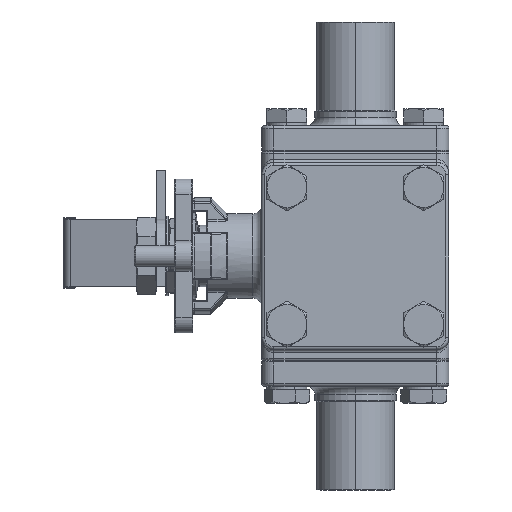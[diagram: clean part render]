
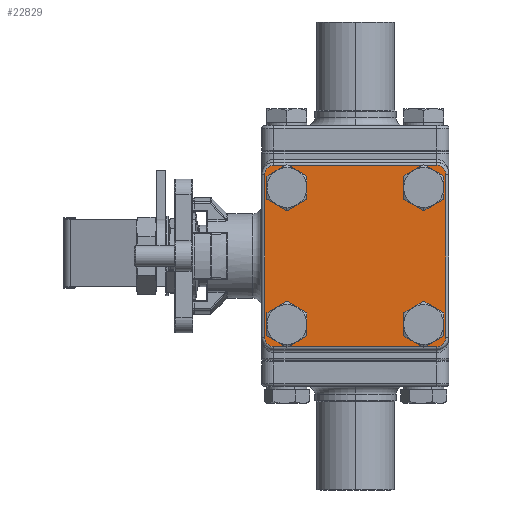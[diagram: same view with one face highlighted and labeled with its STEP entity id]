
A CAD part, left-side view. The second image highlights one B-rep face of the part: STEP entity #22829.
In plain terms, the highlighted planar face has unit normal (-1, 0, 0) as drawn and (0, 0, 1) by its records, which use the part's own axes.
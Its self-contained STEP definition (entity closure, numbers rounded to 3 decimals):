
#166 = CARTESIAN_POINT ( 'NONE',  ( 29.5, 26.5, 7. ) ) ;
#569 = DIRECTION ( 'NONE',  ( 1., 0., 0. ) ) ;
#1210 = CIRCLE ( 'NONE', #7942, 3. ) ;
#1321 = DIRECTION ( 'NONE',  ( 0., 0., 1. ) ) ;
#2297 = CIRCLE ( 'NONE', #10041, 4.5 ) ;
#3336 = DIRECTION ( 'NONE',  ( 0., 0., 1. ) ) ;
#3459 = ORIENTED_EDGE ( 'NONE', *, *, #12803, .F. ) ;
#3876 = EDGE_LOOP ( 'NONE', ( #29893, #31079 ) ) ;
#4193 = AXIS2_PLACEMENT_3D ( 'NONE', #8302, #29030, #15559 ) ;
#4325 = DIRECTION ( 'NONE',  ( 0., 0., 1. ) ) ;
#4477 = CARTESIAN_POINT ( 'NONE',  ( 17.774, 22.274, 7. ) ) ;
#4479 = ORIENTED_EDGE ( 'NONE', *, *, #21447, .T. ) ;
#4515 = ORIENTED_EDGE ( 'NONE', *, *, #8378, .T. ) ;
#4678 = DIRECTION ( 'NONE',  ( 1., 0., 0. ) ) ;
#4811 = CARTESIAN_POINT ( 'NONE',  ( 26.5, -29.5, 7. ) ) ;
#5386 = AXIS2_PLACEMENT_3D ( 'NONE', #6207, #4325, #34070 ) ;
#5728 = PLANE ( 'NONE',  #19064 ) ;
#5816 = VERTEX_POINT ( 'NONE', #4811 ) ;
#5889 = EDGE_CURVE ( 'NONE', #27124, #16553, #33136, .T. ) ;
#5891 = CIRCLE ( 'NONE', #20652, 4.5 ) ;
#6006 = CARTESIAN_POINT ( 'NONE',  ( -22.274, -22.274, 7. ) ) ;
#6058 = CARTESIAN_POINT ( 'NONE',  ( 26.5, 29.5, 7. ) ) ;
#6132 = DIRECTION ( 'NONE',  ( 1., 0., 0. ) ) ;
#6207 = CARTESIAN_POINT ( 'NONE',  ( 22.274, -22.274, 7. ) ) ;
#6444 = LINE ( 'NONE', #15160, #32441 ) ;
#6689 = ORIENTED_EDGE ( 'NONE', *, *, #20789, .T. ) ;
#7347 = CARTESIAN_POINT ( 'NONE',  ( 26.5, -29.5, 7. ) ) ;
#7654 = DIRECTION ( 'NONE',  ( 0., 0., 1. ) ) ;
#7823 = VERTEX_POINT ( 'NONE', #4477 ) ;
#7942 = AXIS2_PLACEMENT_3D ( 'NONE', #30781, #17639, #33827 ) ;
#8302 = CARTESIAN_POINT ( 'NONE',  ( -22.274, 22.274, 7. ) ) ;
#8378 = EDGE_CURVE ( 'NONE', #19658, #5816, #33809, .T. ) ;
#8907 = CIRCLE ( 'NONE', #28477, 3. ) ;
#9038 = CARTESIAN_POINT ( 'NONE',  ( 22.274, 22.274, 7. ) ) ;
#10024 = EDGE_CURVE ( 'NONE', #29282, #21797, #28288, .T. ) ;
#10041 = AXIS2_PLACEMENT_3D ( 'NONE', #24972, #1321, #20021 ) ;
#10082 = FACE_BOUND ( 'NONE', #11365, .T. ) ;
#10202 = VERTEX_POINT ( 'NONE', #21248 ) ;
#10339 = ORIENTED_EDGE ( 'NONE', *, *, #11809, .T. ) ;
#10552 = VERTEX_POINT ( 'NONE', #34412 ) ;
#10590 = CIRCLE ( 'NONE', #5386, 4.5 ) ;
#10687 = VECTOR ( 'NONE', #34172, 1000. ) ;
#10820 = ORIENTED_EDGE ( 'NONE', *, *, #23321, .F. ) ;
#10976 = EDGE_CURVE ( 'NONE', #28354, #10552, #6444, .T. ) ;
#11107 = CARTESIAN_POINT ( 'NONE',  ( 26.5, -26.5, 7. ) ) ;
#11324 = CARTESIAN_POINT ( 'NONE',  ( 26.5, -26.5, 7. ) ) ;
#11365 = EDGE_LOOP ( 'NONE', ( #25812, #3459 ) ) ;
#11518 = LINE ( 'NONE', #18337, #10687 ) ;
#11809 = EDGE_CURVE ( 'NONE', #29472, #17555, #20202, .T. ) ;
#12518 = CARTESIAN_POINT ( 'NONE',  ( 29.5, 26.5, 7. ) ) ;
#12803 = EDGE_CURVE ( 'NONE', #16726, #10202, #25350, .T. ) ;
#12841 = VECTOR ( 'NONE', #20807, 1000. ) ;
#13062 = DIRECTION ( 'NONE',  ( 0., 0., 1. ) ) ;
#13077 = VECTOR ( 'NONE', #24483, 1000. ) ;
#13533 = CARTESIAN_POINT ( 'NONE',  ( -17.774, 22.274, 7. ) ) ;
#14382 = ORIENTED_EDGE ( 'NONE', *, *, #10976, .T. ) ;
#14713 = EDGE_CURVE ( 'NONE', #21797, #29282, #10590, .T. ) ;
#14792 = CARTESIAN_POINT ( 'NONE',  ( 17.774, -22.274, 7. ) ) ;
#15160 = CARTESIAN_POINT ( 'NONE',  ( -26.5, 29.5, 7. ) ) ;
#15559 = DIRECTION ( 'NONE',  ( 1., 0., 0. ) ) ;
#15589 = CARTESIAN_POINT ( 'NONE',  ( -17.774, -22.274, 7. ) ) ;
#15590 = ORIENTED_EDGE ( 'NONE', *, *, #5889, .F. ) ;
#15664 = VERTEX_POINT ( 'NONE', #33494 ) ;
#16553 = VERTEX_POINT ( 'NONE', #28384 ) ;
#16577 = DIRECTION ( 'NONE',  ( 0., 0., 1. ) ) ;
#16620 = CIRCLE ( 'NONE', #32958, 3. ) ;
#16726 = VERTEX_POINT ( 'NONE', #15589 ) ;
#16802 = FACE_BOUND ( 'NONE', #24704, .T. ) ;
#16966 = CIRCLE ( 'NONE', #27294, 4.5 ) ;
#17066 = AXIS2_PLACEMENT_3D ( 'NONE', #6006, #3336, #30021 ) ;
#17225 = VERTEX_POINT ( 'NONE', #19214 ) ;
#17258 = ORIENTED_EDGE ( 'NONE', *, *, #20510, .T. ) ;
#17555 = VERTEX_POINT ( 'NONE', #12518 ) ;
#17639 = DIRECTION ( 'NONE',  ( 0., 0., 1. ) ) ;
#17789 = DIRECTION ( 'NONE',  ( 0., 0., 1. ) ) ;
#17980 = EDGE_CURVE ( 'NONE', #15664, #19658, #1210, .T. ) ;
#18315 = ORIENTED_EDGE ( 'NONE', *, *, #14713, .F. ) ;
#18337 = CARTESIAN_POINT ( 'NONE',  ( -29.5, -26.5, 7. ) ) ;
#19064 = AXIS2_PLACEMENT_3D ( 'NONE', #11107, #29619, #31981 ) ;
#19214 = CARTESIAN_POINT ( 'NONE',  ( -29.5, 26.5, 7. ) ) ;
#19531 = CIRCLE ( 'NONE', #28870, 3. ) ;
#19658 = VERTEX_POINT ( 'NONE', #20857 ) ;
#19766 = AXIS2_PLACEMENT_3D ( 'NONE', #25952, #7654, #23716 ) ;
#20021 = DIRECTION ( 'NONE',  ( 1., 0., 0. ) ) ;
#20202 = LINE ( 'NONE', #166, #13077 ) ;
#20352 = CARTESIAN_POINT ( 'NONE',  ( -26.5, 26.5, 7. ) ) ;
#20510 = EDGE_CURVE ( 'NONE', #10552, #17225, #19531, .T. ) ;
#20560 = FACE_OUTER_BOUND ( 'NONE', #24556, .T. ) ;
#20602 = CARTESIAN_POINT ( 'NONE',  ( 26.5, 26.5, 7. ) ) ;
#20652 = AXIS2_PLACEMENT_3D ( 'NONE', #26666, #13062, #31476 ) ;
#20789 = EDGE_CURVE ( 'NONE', #5816, #29472, #16620, .T. ) ;
#20807 = DIRECTION ( 'NONE',  ( 1., 0., 0. ) ) ;
#20857 = CARTESIAN_POINT ( 'NONE',  ( -26.5, -29.5, 7. ) ) ;
#21248 = CARTESIAN_POINT ( 'NONE',  ( -26.774, -22.274, 7. ) ) ;
#21447 = EDGE_CURVE ( 'NONE', #17555, #28354, #8907, .T. ) ;
#21520 = DIRECTION ( 'NONE',  ( 0., 0., 1. ) ) ;
#21797 = VERTEX_POINT ( 'NONE', #22446 ) ;
#21937 = AXIS2_PLACEMENT_3D ( 'NONE', #27245, #16577, #569 ) ;
#22446 = CARTESIAN_POINT ( 'NONE',  ( 26.774, -22.274, 7. ) ) ;
#22829 = ADVANCED_FACE ( 'NONE', ( #20560, #10082, #33162, #16802, #25173 ), #5728, .T. ) ;
#23046 = DIRECTION ( 'NONE',  ( 0., 0., 1. ) ) ;
#23321 = EDGE_CURVE ( 'NONE', #16553, #27124, #5891, .T. ) ;
#23716 = DIRECTION ( 'NONE',  ( 1., 0., 0. ) ) ;
#23958 = EDGE_CURVE ( 'NONE', #10202, #16726, #25103, .T. ) ;
#24448 = DIRECTION ( 'NONE',  ( 1., 0., 0. ) ) ;
#24483 = DIRECTION ( 'NONE',  ( 0., 1., 0. ) ) ;
#24556 = EDGE_LOOP ( 'NONE', ( #10339, #4479, #14382, #17258, #32753, #34175, #4515, #6689 ) ) ;
#24704 = EDGE_LOOP ( 'NONE', ( #34364, #18315 ) ) ;
#24972 = CARTESIAN_POINT ( 'NONE',  ( 22.274, 22.274, 7. ) ) ;
#25103 = CIRCLE ( 'NONE', #17066, 4.5 ) ;
#25173 = FACE_BOUND ( 'NONE', #25354, .T. ) ;
#25350 = CIRCLE ( 'NONE', #21937, 4.5 ) ;
#25354 = EDGE_LOOP ( 'NONE', ( #10820, #15590 ) ) ;
#25812 = ORIENTED_EDGE ( 'NONE', *, *, #23958, .F. ) ;
#25895 = DIRECTION ( 'NONE',  ( 1., 0., 0. ) ) ;
#25952 = CARTESIAN_POINT ( 'NONE',  ( 22.274, -22.274, 7. ) ) ;
#26168 = CARTESIAN_POINT ( 'NONE',  ( 29.5, -26.5, 7. ) ) ;
#26666 = CARTESIAN_POINT ( 'NONE',  ( -22.274, 22.274, 7. ) ) ;
#27124 = VERTEX_POINT ( 'NONE', #13533 ) ;
#27245 = CARTESIAN_POINT ( 'NONE',  ( -22.274, -22.274, 7. ) ) ;
#27294 = AXIS2_PLACEMENT_3D ( 'NONE', #9038, #33193, #6132 ) ;
#27914 = EDGE_CURVE ( 'NONE', #7823, #33085, #16966, .T. ) ;
#28126 = EDGE_CURVE ( 'NONE', #17225, #15664, #11518, .T. ) ;
#28288 = CIRCLE ( 'NONE', #19766, 4.5 ) ;
#28354 = VERTEX_POINT ( 'NONE', #6058 ) ;
#28384 = CARTESIAN_POINT ( 'NONE',  ( -26.774, 22.274, 7. ) ) ;
#28477 = AXIS2_PLACEMENT_3D ( 'NONE', #20602, #17789, #25895 ) ;
#28870 = AXIS2_PLACEMENT_3D ( 'NONE', #20352, #23046, #4678 ) ;
#29030 = DIRECTION ( 'NONE',  ( 0., 0., 1. ) ) ;
#29282 = VERTEX_POINT ( 'NONE', #14792 ) ;
#29472 = VERTEX_POINT ( 'NONE', #26168 ) ;
#29619 = DIRECTION ( 'NONE',  ( 0., 0., 1. ) ) ;
#29893 = ORIENTED_EDGE ( 'NONE', *, *, #27914, .F. ) ;
#29945 = EDGE_CURVE ( 'NONE', #33085, #7823, #2297, .T. ) ;
#30021 = DIRECTION ( 'NONE',  ( 1., 0., 0. ) ) ;
#30781 = CARTESIAN_POINT ( 'NONE',  ( -26.5, -26.5, 7. ) ) ;
#31079 = ORIENTED_EDGE ( 'NONE', *, *, #29945, .F. ) ;
#31105 = DIRECTION ( 'NONE',  ( -1., 0., 0. ) ) ;
#31476 = DIRECTION ( 'NONE',  ( 1., 0., 0. ) ) ;
#31981 = DIRECTION ( 'NONE',  ( 1., 0., 0. ) ) ;
#32441 = VECTOR ( 'NONE', #31105, 1000. ) ;
#32753 = ORIENTED_EDGE ( 'NONE', *, *, #28126, .T. ) ;
#32958 = AXIS2_PLACEMENT_3D ( 'NONE', #11324, #21520, #24448 ) ;
#33085 = VERTEX_POINT ( 'NONE', #33742 ) ;
#33136 = CIRCLE ( 'NONE', #4193, 4.5 ) ;
#33162 = FACE_BOUND ( 'NONE', #3876, .T. ) ;
#33193 = DIRECTION ( 'NONE',  ( 0., 0., 1. ) ) ;
#33494 = CARTESIAN_POINT ( 'NONE',  ( -29.5, -26.5, 7. ) ) ;
#33742 = CARTESIAN_POINT ( 'NONE',  ( 26.774, 22.274, 7. ) ) ;
#33809 = LINE ( 'NONE', #7347, #12841 ) ;
#33827 = DIRECTION ( 'NONE',  ( 1., 0., 0. ) ) ;
#34070 = DIRECTION ( 'NONE',  ( 1., 0., 0. ) ) ;
#34172 = DIRECTION ( 'NONE',  ( 0., -1., 0. ) ) ;
#34175 = ORIENTED_EDGE ( 'NONE', *, *, #17980, .T. ) ;
#34364 = ORIENTED_EDGE ( 'NONE', *, *, #10024, .F. ) ;
#34412 = CARTESIAN_POINT ( 'NONE',  ( -26.5, 29.5, 7. ) ) ;
